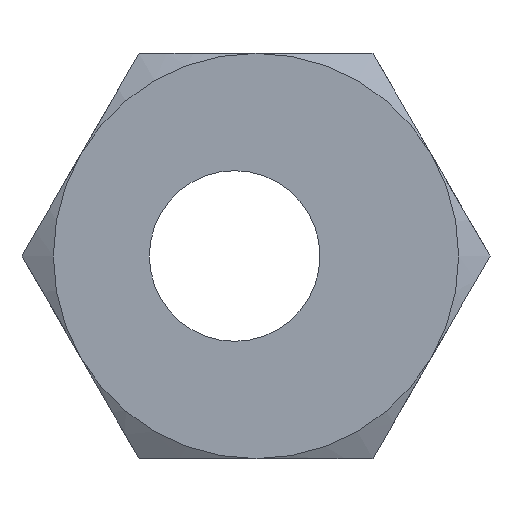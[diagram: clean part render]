
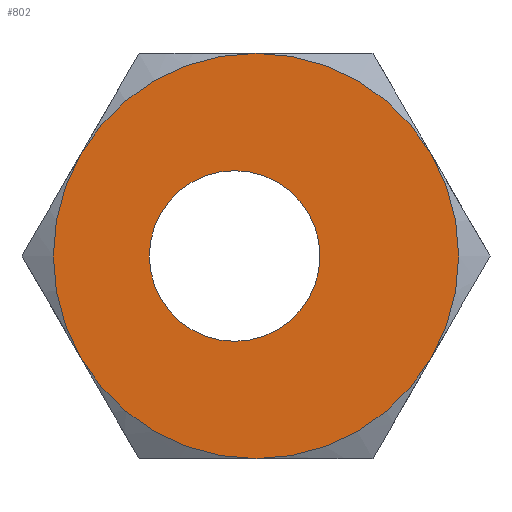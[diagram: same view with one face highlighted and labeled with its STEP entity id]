
A CAD part, left-side view. The second image highlights one B-rep face of the part: STEP entity #802.
In plain terms, the highlighted planar face has unit normal (-1, 0, 0).
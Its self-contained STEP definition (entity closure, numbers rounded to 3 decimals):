
#60=CARTESIAN_POINT('',(0.0,5.,0.));
#61=VERTEX_POINT('',#60);
#62=CARTESIAN_POINT('',(0.,1.,0.0));
#63=DIRECTION('',(1.0,0.0,0.0));
#64=DIRECTION('',(0.0,-1.0,0.0));
#65=AXIS2_PLACEMENT_3D('',#62,#63,#64);
#66=CIRCLE('',#65,4.0);
#67=EDGE_CURVE('',#61,#61,#66,.T.);
#79=CARTESIAN_POINT('',(0.0,8.227,-4.75));
#80=VERTEX_POINT('',#79);
#94=CARTESIAN_POINT('',(0.0,0.,-9.5));
#95=VERTEX_POINT('',#94);
#109=CARTESIAN_POINT('',(0.0,0.0,0.0));
#110=DIRECTION('',(-1.0,0.0,0.0));
#111=DIRECTION('',(0.0,1.0,0.0));
#112=AXIS2_PLACEMENT_3D('',#109,#110,#111);
#113=CIRCLE('',#112,9.5);
#114=EDGE_CURVE('',#80,#95,#113,.T.);
#124=CARTESIAN_POINT('',(0.0,-8.227,-4.75));
#125=VERTEX_POINT('',#124);
#141=CARTESIAN_POINT('',(0.0,0.0,0.0));
#142=DIRECTION('',(-1.0,0.0,0.0));
#143=DIRECTION('',(0.0,1.0,0.0));
#144=AXIS2_PLACEMENT_3D('',#141,#142,#143);
#145=CIRCLE('',#144,9.5);
#146=EDGE_CURVE('',#95,#125,#145,.T.);
#169=CARTESIAN_POINT('',(0.0,-8.227,4.75));
#170=VERTEX_POINT('',#169);
#186=CARTESIAN_POINT('',(0.0,0.0,0.0));
#187=DIRECTION('',(-1.0,0.0,0.0));
#188=DIRECTION('',(0.0,1.0,0.0));
#189=AXIS2_PLACEMENT_3D('',#186,#187,#188);
#190=CIRCLE('',#189,9.5);
#191=EDGE_CURVE('',#125,#170,#190,.T.);
#216=CARTESIAN_POINT('',(0.0,8.227,4.75));
#217=VERTEX_POINT('',#216);
#244=CARTESIAN_POINT('',(0.0,0.0,0.0));
#245=DIRECTION('',(-1.0,0.0,0.0));
#246=DIRECTION('',(0.0,1.0,0.0));
#247=AXIS2_PLACEMENT_3D('',#244,#245,#246);
#248=CIRCLE('',#247,9.5);
#249=EDGE_CURVE('',#217,#80,#248,.T.);
#259=CARTESIAN_POINT('',(0.0,0.,9.5));
#260=VERTEX_POINT('',#259);
#276=CARTESIAN_POINT('',(0.0,0.0,0.0));
#277=DIRECTION('',(-1.0,0.0,0.0));
#278=DIRECTION('',(0.0,1.0,0.0));
#279=AXIS2_PLACEMENT_3D('',#276,#277,#278);
#280=CIRCLE('',#279,9.5);
#281=EDGE_CURVE('',#170,#260,#280,.T.);
#319=CARTESIAN_POINT('',(0.0,0.0,0.0));
#320=DIRECTION('',(-1.0,0.0,0.0));
#321=DIRECTION('',(0.0,1.0,0.0));
#322=AXIS2_PLACEMENT_3D('',#319,#320,#321);
#323=CIRCLE('',#322,9.5);
#324=EDGE_CURVE('',#260,#217,#323,.T.);
#786=CARTESIAN_POINT('',(0.,4.75,0.0));
#787=DIRECTION('',(-1.0,0.0,0.0));
#788=DIRECTION('',(0.0,0.0,1.0));
#789=AXIS2_PLACEMENT_3D('',#786,#787,#788);
#790=PLANE('',#789);
#791=ORIENTED_EDGE('',*,*,#146,.T.);
#792=ORIENTED_EDGE('',*,*,#191,.T.);
#793=ORIENTED_EDGE('',*,*,#281,.T.);
#794=ORIENTED_EDGE('',*,*,#324,.T.);
#795=ORIENTED_EDGE('',*,*,#249,.T.);
#796=ORIENTED_EDGE('',*,*,#114,.T.);
#797=EDGE_LOOP('',(#791,#792,#793,#794,#795,#796));
#798=FACE_OUTER_BOUND('',#797,.T.);
#799=ORIENTED_EDGE('',*,*,#67,.T.);
#800=EDGE_LOOP('',(#799));
#801=FACE_BOUND('',#800,.T.);
#802=ADVANCED_FACE('',(#798,#801),#790,.T.);
